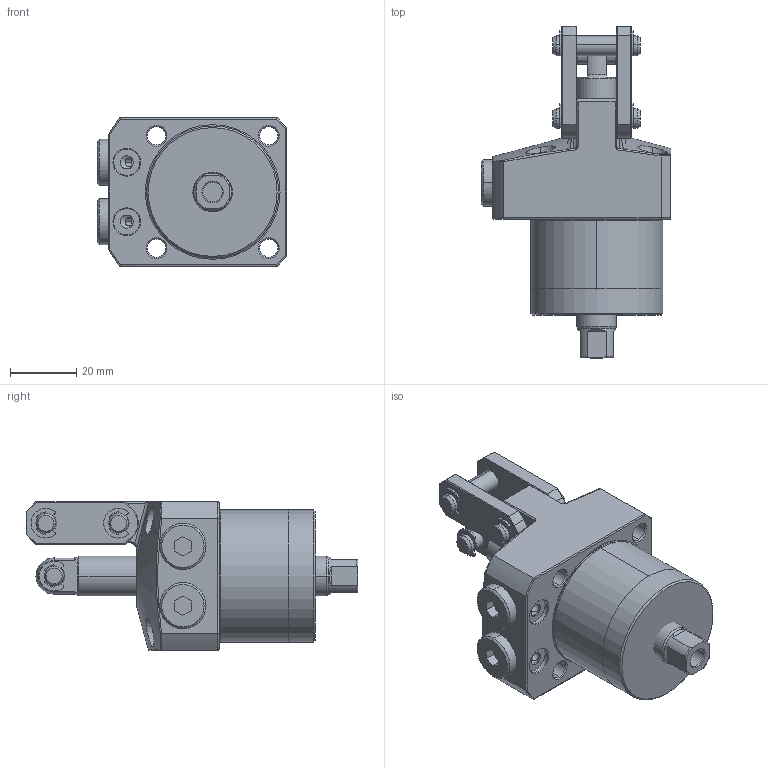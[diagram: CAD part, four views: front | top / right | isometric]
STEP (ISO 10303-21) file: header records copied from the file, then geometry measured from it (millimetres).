
FILE_DESCRIPTION(/* description */ (''),/* implementation_level */ '2;1');
FILE_NAME(/* name */ 'KTPC40-RD.stp',/* time_stamp */ '2022-11-18T16:44:34+08:00',/* author */ (''),/* organization */ (''),/* preprocessor_version */ 'ST-DEVELOPER v16.7',/* originating_system */ 'SIEMENS PLM Software NX 12.0',/* authorisation */ '');
FILE_SCHEMA (('AP203_CONFIGURATION_CONTROLLED_3D_DESIGN_OF_MECHANICAL_PARTS_AND_ASSEMBLIES_MIM_LF { 1 0 10303 403 2 1 2}'));
Length unit declared in the file: millimetre
Products named in the file (9): KTPC40-RD-01; KTPC40-RD-06; KTPC40-RD-03; KTPC40-RD-04; KTPC40-RD-02; KTPC40-RD-05; KTPC40-RD-07; KTPC40-RD-08; LKA0400-CRD_step
Assembly tree (16 placements, depth 2):
  LKA0400-CRD_step
    KTPC40-RD-08  x6
    KTPC40-RD-07  x2
    KTPC40-RD-05  x2
    KTPC40-RD-02
    KTPC40-RD-04  x2
    KTPC40-RD-03
    KTPC40-RD-06
    KTPC40-RD-01
Bounding box: 57.5 x 100.5 x 45 mm (x, y, z)
Volume: 126157.5 mm3; surface area: 29611.9 mm2
Topology: 16 solids, 16 shells, 587 faces, 1419 edges, 887 vertices
Faces by surface type: cylinder 244, plane 185, cone 75, torus 64, bspline 17, sphere 2
Full cylindrical faces by diameter (mm): 40 x1
Entity records: 12402 total; most frequent: CARTESIAN_POINT 3131, DIRECTION 1753, ORIENTED_EDGE 1626, EDGE_CURVE 813, AXIS2_PLACEMENT_3D 715, VERTEX_POINT 501, EDGE_LOOP 392, CIRCLE 365
